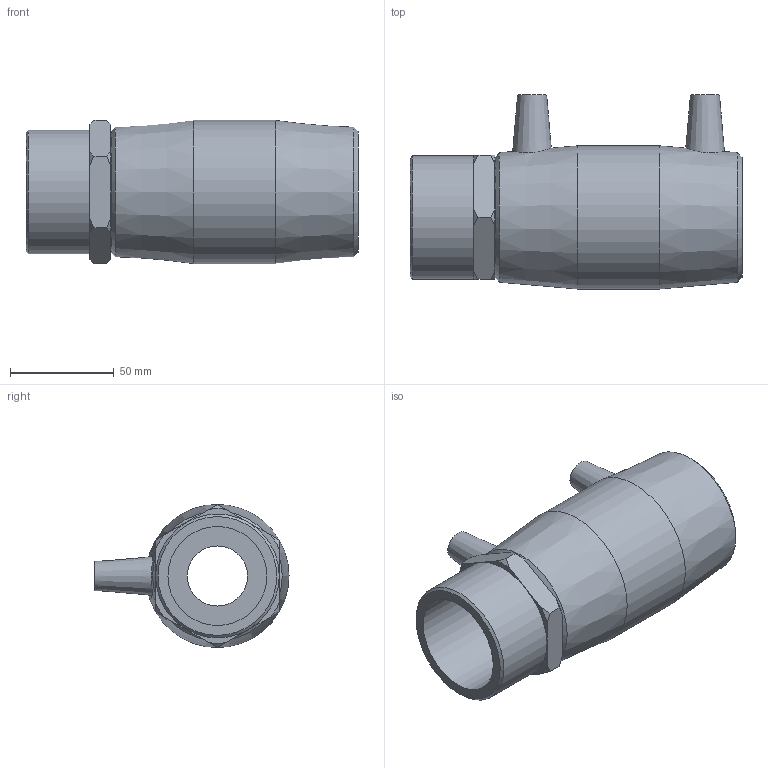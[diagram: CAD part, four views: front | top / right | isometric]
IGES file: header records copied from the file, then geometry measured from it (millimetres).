
Global section: file name: 492104040020.ipt; native system: Autodesk Inventor 2015; preprocessor: unknown; author: KIM; date: 20200202.122316; units: millimetre
Bounding box: 160 x 93.5 x 69 mm (x, y, z)
Volume: 367634.8 mm3; surface area: 64483.8 mm2
Topology: 1 solids, 2 shells, 54 faces, 129 edges, 88 vertices
Faces by surface type: plane 21, cone 19, revolution 8, cylinder 6
Full cylindrical faces by diameter (mm): 4 x2, 40 x2, 59.614 x1, 69 x1
